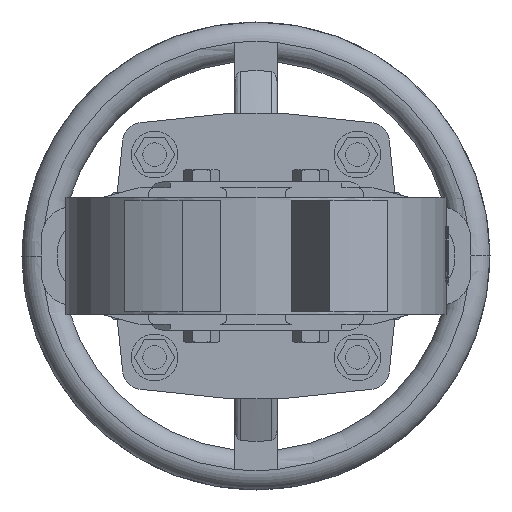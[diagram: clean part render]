
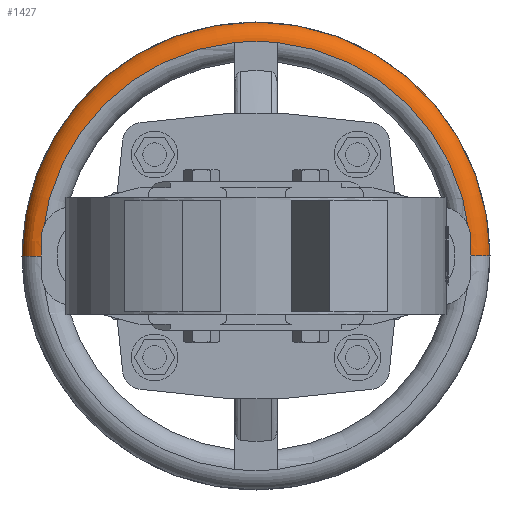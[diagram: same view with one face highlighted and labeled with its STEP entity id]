
A CAD part, front view. The second image highlights one B-rep face of the part: STEP entity #1427.
In plain terms, the highlighted toroidal (fillet/blend) face has major radius 110 mm and minor radius 10 mm.
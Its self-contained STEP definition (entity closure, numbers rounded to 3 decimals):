
#1412 = EDGE_CURVE ( 'NONE', #1493, #1434, #17392, .T. ) ;
#1418 = EDGE_CURVE ( 'NONE', #1467, #1468, #17421, .T. ) ;
#1427 = ADVANCED_FACE ( 'NONE', ( #17461 ), #17460, .T. ) ;
#1428 = EDGE_LOOP ( 'NONE', ( #1430, #1544, #1548, #1473, #1478, #1484, #1490, #1495 ) ) ;
#1430 = ORIENTED_EDGE ( 'NONE', *, *, #1432, .T. ) ;
#1432 = EDGE_CURVE ( 'NONE', #1434, #1436, #17455, .T. ) ;
#1434 = VERTEX_POINT ( 'NONE', #17443 ) ;
#1436 = VERTEX_POINT ( 'NONE', #17440 ) ;
#1467 = VERTEX_POINT ( 'NONE', #17508 ) ;
#1468 = VERTEX_POINT ( 'NONE', #17507 ) ;
#1473 = ORIENTED_EDGE ( 'NONE', *, *, #1475, .F. ) ;
#1475 = EDGE_CURVE ( 'NONE', #1551, #1467, #17538, .T. ) ;
#1478 = ORIENTED_EDGE ( 'NONE', *, *, #1480, .T. ) ;
#1480 = EDGE_CURVE ( 'NONE', #1551, #1481, #17531, .T. ) ;
#1481 = VERTEX_POINT ( 'NONE', #17526 ) ;
#1484 = ORIENTED_EDGE ( 'NONE', *, *, #1486, .T. ) ;
#1486 = EDGE_CURVE ( 'NONE', #1481, #1487, #17575, .T. ) ;
#1487 = VERTEX_POINT ( 'NONE', #17570 ) ;
#1490 = ORIENTED_EDGE ( 'NONE', *, *, #1492, .T. ) ;
#1492 = EDGE_CURVE ( 'NONE', #1487, #1493, #17564, .T. ) ;
#1493 = VERTEX_POINT ( 'NONE', #17559 ) ;
#1495 = ORIENTED_EDGE ( 'NONE', *, *, #1412, .T. ) ;
#1544 = ORIENTED_EDGE ( 'NONE', *, *, #1546, .T. ) ;
#1546 = EDGE_CURVE ( 'NONE', #1436, #1468, #17661, .T. ) ;
#1548 = ORIENTED_EDGE ( 'NONE', *, *, #1418, .F. ) ;
#1551 = VERTEX_POINT ( 'NONE', #17712 ) ;
#17380 = DIRECTION ( 'NONE',  ( -1., 0., 0. ) ) ;
#17381 = DIRECTION ( 'NONE',  ( 0., 1., 0. ) ) ;
#17382 = CARTESIAN_POINT ( 'NONE',  ( 0., 1027.5, 0. ) ) ;
#17383 = AXIS2_PLACEMENT_3D ( 'NONE', #17382, #17381, #17380 ) ;
#17392 = CIRCLE ( 'NONE', #17383, 110. ) ;
#17407 = CARTESIAN_POINT ( 'NONE',  ( 0., 1037.5, 0. ) ) ;
#17418 = DIRECTION ( 'NONE',  ( -1., 0., 0. ) ) ;
#17419 = DIRECTION ( 'NONE',  ( 0., 1., 0. ) ) ;
#17420 = AXIS2_PLACEMENT_3D ( 'NONE', #17427, #17419, #17418 ) ;
#17421 = CIRCLE ( 'NONE', #17420, 120. ) ;
#17427 = CARTESIAN_POINT ( 'NONE',  ( 0., 1037.5, 0. ) ) ;
#17440 = CARTESIAN_POINT ( 'NONE',  ( 110., 1027.5, 0. ) ) ;
#17443 = CARTESIAN_POINT ( 'NONE',  ( 109.449, 1027.5, 11. ) ) ;
#17448 = DIRECTION ( 'NONE',  ( -1., 0., 0. ) ) ;
#17449 = DIRECTION ( 'NONE',  ( 0., 1., 0. ) ) ;
#17450 = CARTESIAN_POINT ( 'NONE',  ( 0., 1027.5, 0. ) ) ;
#17451 = AXIS2_PLACEMENT_3D ( 'NONE', #17450, #17449, #17448 ) ;
#17452 = DIRECTION ( 'NONE',  ( -1., 0., 0. ) ) ;
#17453 = DIRECTION ( 'NONE',  ( 0., 1., 0. ) ) ;
#17454 = AXIS2_PLACEMENT_3D ( 'NONE', #17407, #17453, #17452 ) ;
#17455 = CIRCLE ( 'NONE', #17451, 110. ) ;
#17460 = TOROIDAL_SURFACE ( 'NONE', #17454, 110., 10. ) ;
#17461 = FACE_OUTER_BOUND ( 'NONE', #1428, .T. ) ;
#17507 = CARTESIAN_POINT ( 'NONE',  ( 120., 1037.5, 0. ) ) ;
#17508 = CARTESIAN_POINT ( 'NONE',  ( -120., 1037.5, 0. ) ) ;
#17526 = CARTESIAN_POINT ( 'NONE',  ( -109.449, 1027.5, 11. ) ) ;
#17527 = DIRECTION ( 'NONE',  ( -1., 0., 0. ) ) ;
#17528 = DIRECTION ( 'NONE',  ( 0., 1., 0. ) ) ;
#17529 = CARTESIAN_POINT ( 'NONE',  ( 0., 1027.5, 0. ) ) ;
#17530 = AXIS2_PLACEMENT_3D ( 'NONE', #17529, #17528, #17527 ) ;
#17531 = CIRCLE ( 'NONE', #17530, 110. ) ;
#17534 = DIRECTION ( 'NONE',  ( -1., 0., 0. ) ) ;
#17535 = DIRECTION ( 'NONE',  ( 0., 0., -1. ) ) ;
#17536 = CARTESIAN_POINT ( 'NONE',  ( -110., 1037.5, 0. ) ) ;
#17537 = AXIS2_PLACEMENT_3D ( 'NONE', #17536, #17535, #17534 ) ;
#17538 = CIRCLE ( 'NONE', #17537, 10. ) ;
#17559 = CARTESIAN_POINT ( 'NONE',  ( 11., 1027.5, 109.449 ) ) ;
#17560 = DIRECTION ( 'NONE',  ( -1., 0., 0. ) ) ;
#17561 = DIRECTION ( 'NONE',  ( 0., 1., 0. ) ) ;
#17562 = CARTESIAN_POINT ( 'NONE',  ( 0., 1027.5, 0. ) ) ;
#17563 = AXIS2_PLACEMENT_3D ( 'NONE', #17562, #17561, #17560 ) ;
#17564 = CIRCLE ( 'NONE', #17563, 110. ) ;
#17570 = CARTESIAN_POINT ( 'NONE',  ( -11., 1027.5, 109.449 ) ) ;
#17571 = DIRECTION ( 'NONE',  ( -1., 0., 0. ) ) ;
#17572 = DIRECTION ( 'NONE',  ( 0., 1., 0. ) ) ;
#17573 = CARTESIAN_POINT ( 'NONE',  ( 0., 1027.5, 0. ) ) ;
#17574 = AXIS2_PLACEMENT_3D ( 'NONE', #17573, #17572, #17571 ) ;
#17575 = CIRCLE ( 'NONE', #17574, 110. ) ;
#17657 = DIRECTION ( 'NONE',  ( 1., 0., 0. ) ) ;
#17658 = DIRECTION ( 'NONE',  ( 0., 0., 1. ) ) ;
#17659 = CARTESIAN_POINT ( 'NONE',  ( 110., 1037.5, 0. ) ) ;
#17660 = AXIS2_PLACEMENT_3D ( 'NONE', #17659, #17658, #17657 ) ;
#17661 = CIRCLE ( 'NONE', #17660, 10. ) ;
#17712 = CARTESIAN_POINT ( 'NONE',  ( -110., 1027.5, 0. ) ) ;
